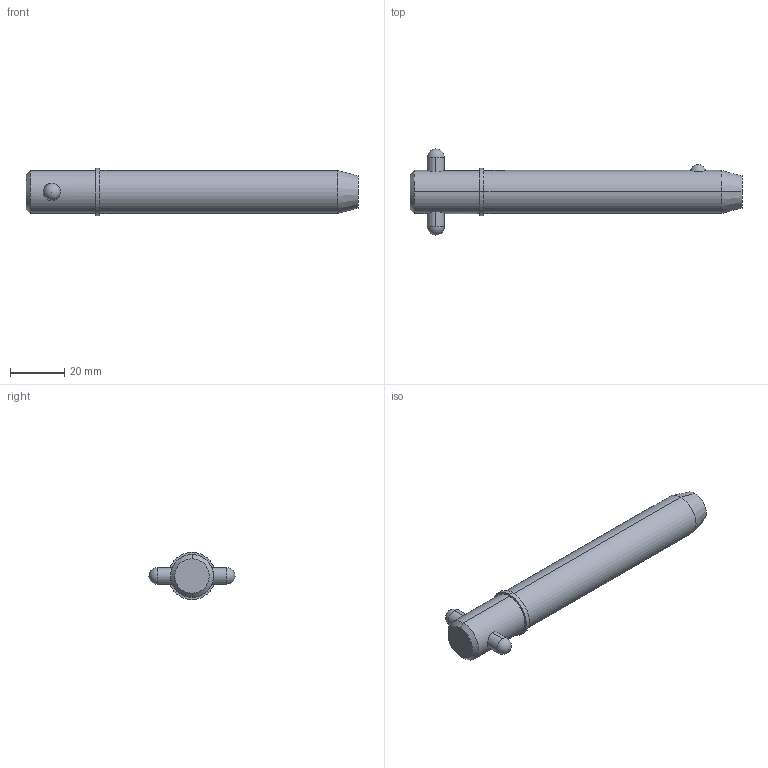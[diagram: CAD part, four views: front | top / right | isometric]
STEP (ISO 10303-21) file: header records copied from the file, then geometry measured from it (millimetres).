
FILE_DESCRIPTION (( 'STEP AP203' ), '1' );
FILE_NAME ('33018.W6230.step', '2024-11-19T17:18:33', ( '' ), ( '' ), 'SwSTEP 2.0', 'SolidWorks 2019', '' );
FILE_SCHEMA (( 'CONFIG_CONTROL_DESIGN' ));
Length unit declared in the file: millimetre
Products named in the file (3): Part2_33018.W6230; 33018.W6230; Part1_33018.W6230
Assembly tree (2 placements, depth 2):
  33018.W6230
    Part1_33018.W6230
    Part2_33018.W6230
Bounding box: 122.56 x 31.75 x 17.47 mm (x, y, z)
Volume: 24426.7 mm3; surface area: 7321 mm2
Topology: 2 solids, 2 shells, 22 faces, 47 edges, 30 vertices
Faces by surface type: cylinder 10, sphere 4, cone 4, plane 4
Entity records: 1047 total; most frequent: CARTESIAN_POINT 290, DIRECTION 110, ORIENTED_EDGE 82, AXIS2_PLACEMENT_3D 48, EDGE_CURVE 41, EDGE_LOOP 27, PERSON_AND_ORGANIZATION 26, VERTEX_POINT 26
